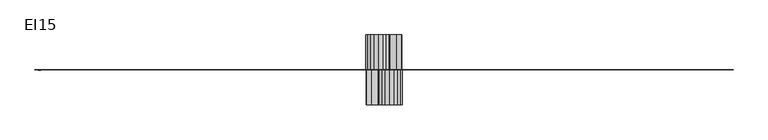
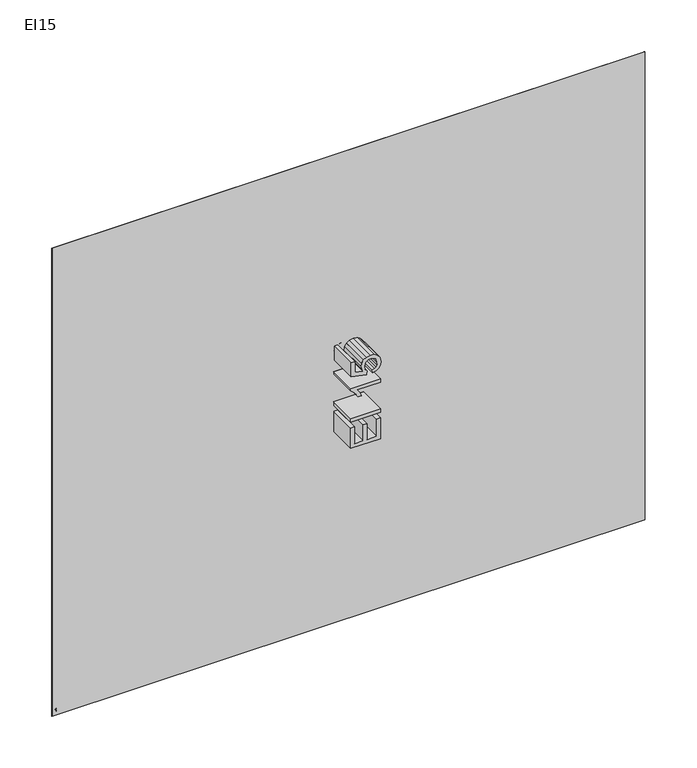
"""IFC4 building model written with IfcOpenShell, lengths in millimetres: proxy geometry, Fire_FireCompartmentationEI : EI15."""

import ifcopenshell
import ifcopenshell.guid

model = None  # the IFC model being written
_history = None  # IfcOwnerHistory: only IFC2X3 demands one
_inside = {}  # id of a spatial element -> (the spatial element, [elements in it])
_under = {}  # id of a project, library or spatial element -> (it, [spatial elements below it])
_declared = {}  # id of a project -> (the project, [libraries it declares])
_typed = {}  # id of a type object -> (the type object, [elements of that type])
_made_of = {}  # id of a material, layer set ... -> (it, [elements and type objects made of it])


def new_model(schema):
    """Start an empty IFC model of exactly this schema.

    Asked for "IFC4X3", IfcOpenShell would pick the latest addendum, in which some entities
    have other attributes; the version numbers below select the first issue.
    IFC2X3 requires an IfcOwnerHistory on every rooted entity: one is made here for all.
    """
    global model, _history
    if schema == "IFC4X3":
        model = ifcopenshell.file(schema_version=(4, 3, 0, 0))
    else:
        model = ifcopenshell.file(schema=schema)
    _inside.clear()
    _under.clear()
    _declared.clear()
    _typed.clear()
    _made_of.clear()
    _history = None
    if model.schema == "IFC2X3":
        org = make("IfcOrganization", Name="unknown")
        user = make(
            "IfcPersonAndOrganization",
            ThePerson=make("IfcPerson", FamilyName="unknown"),
            TheOrganization=org,
        )
        app = make(
            "IfcApplication",
            ApplicationDeveloper=org,
            Version="unknown",
            ApplicationFullName="unknown",
            ApplicationIdentifier="unknown",
        )
        _history = make(
            "IfcOwnerHistory",
            OwningUser=user,
            OwningApplication=app,
            ChangeAction="ADDED",
            CreationDate=0,
        )
    return model


def make(cls, **values):
    """One entity of the class cls with the attributes given. An attribute that is None is left unset."""
    return model.create_entity(
        cls, **{name: value for name, value in values.items() if value is not None}
    )


def rooted(cls, **values):
    """An entity with a GlobalId (a new one), such as an element, a storey or a relation."""
    return make(cls, GlobalId=ifcopenshell.guid.new(), OwnerHistory=_history, **values)


def si_unit(unit_type, name, prefix=None):
    """IfcSIUnit, for example si_unit("LENGTHUNIT", "METRE", prefix="MILLI")."""
    return make("IfcSIUnit", UnitType=unit_type, Prefix=prefix, Name=name)


def assignment(units):
    """IfcUnitAssignment: the units of a project."""
    return None if units is None else make("IfcUnitAssignment", Units=units)


def point(xyz):
    """IfcCartesianPoint."""
    return None if xyz is None else make("IfcCartesianPoint", Coordinates=xyz)


def direction(xyz):
    """IfcDirection."""
    return None if xyz is None else make("IfcDirection", DirectionRatios=xyz)


def frame(location, z_axis=None, x_axis=None):
    """IfcAxis2Placement3D, a coordinate frame: its origin and axes. An axis left out is left unset."""
    return make(
        "IfcAxis2Placement3D",
        Location=point(location),
        Axis=direction(z_axis),
        RefDirection=direction(x_axis),
    )


def frame_2d(location, x_axis=None):
    """IfcAxis2Placement2D, a coordinate frame in the plane: its origin and x axis."""
    return make(
        "IfcAxis2Placement2D", Location=point(location), RefDirection=direction(x_axis)
    )


def origin():
    """The frame at (0, 0, 0) with its axes left unset."""
    return frame((0.0, 0.0, 0.0))


def origin_with_axes():
    """The frame at (0, 0, 0) with the z axis (0, 0, 1) and the x axis (1, 0, 0) written out."""
    return frame((0.0, 0.0, 0.0), z_axis=(0.0, 0.0, 1.0), x_axis=(1.0, 0.0, 0.0))


def place(relative_to, where):
    """IfcLocalPlacement: puts the frame where relative to a parent placement (None: the world)."""
    return make(
        "IfcLocalPlacement", PlacementRelTo=relative_to, RelativePlacement=where
    )


def context(
    kind, dimensions, precision=None, world=None, true_north=None, identifier=None
):
    """IfcGeometricRepresentationContext, for example the 3D "Model" context."""
    return make(
        "IfcGeometricRepresentationContext",
        ContextIdentifier=identifier,
        ContextType=kind,
        CoordinateSpaceDimension=dimensions,
        Precision=precision,
        WorldCoordinateSystem=world,
        TrueNorth=true_north,
    )


def project(units=None, contexts=None):
    """IfcProject with its units and contexts."""
    return rooted(
        "IfcProject",
        Name="project",
        RepresentationContexts=contexts,
        UnitsInContext=assignment(units),
    )


def spatial(cls, under=None, at=None, **own):
    """A site, building, storey or space (cls), placed at a placement, below another one or the project."""
    s = rooted(cls, ObjectPlacement=at, **own)
    if under is not None:
        _under.setdefault(under.id(), (under, []))[1].append(s)
    return s


def polyline(points):
    """IfcPolyline through the points."""
    return make("IfcPolyline", Points=[point(p) for p in points])


def circle_curve(where, radius):
    """IfcCircle in the frame where."""
    return make("IfcCircle", Position=where, Radius=radius)


def trimmed(basis, trim1, trim2, sense, master):
    """IfcTrimmedCurve: the piece of a basis curve between two trims."""
    return make(
        "IfcTrimmedCurve",
        BasisCurve=basis,
        Trim1=trim1,
        Trim2=trim2,
        SenseAgreement=sense,
        MasterRepresentation=master,
    )


def segment(curve, same_sense, transition):
    """IfcCompositeCurveSegment."""
    return make(
        "IfcCompositeCurveSegment",
        Transition=transition,
        SameSense=same_sense,
        ParentCurve=curve,
    )


def composite_curve(segments, self_intersect=None):
    """IfcCompositeCurve: segments joined end to end."""
    return make("IfcCompositeCurve", Segments=segments, SelfIntersect=self_intersect)


def outline(outer, holes=None, kind="AREA"):
    """IfcArbitraryClosedProfileDef: a profile drawn as a closed curve; with holes, ...WithVoids."""
    if holes is None:
        return make("IfcArbitraryClosedProfileDef", ProfileType=kind, OuterCurve=outer)
    return make(
        "IfcArbitraryProfileDefWithVoids",
        ProfileType=kind,
        OuterCurve=outer,
        InnerCurves=holes,
    )


def extrude(swept, where, along, depth):
    """IfcExtrudedAreaSolid: the profile swept, set in the frame where, extruded along a direction by depth."""
    return make(
        "IfcExtrudedAreaSolid",
        SweptArea=swept,
        Position=where,
        ExtrudedDirection=direction(along),
        Depth=depth,
    )


def shape(context_of_items, identifier, shape_type, items):
    """IfcShapeRepresentation: the items that make up one representation, for example the "Body"."""
    return make(
        "IfcShapeRepresentation",
        ContextOfItems=context_of_items,
        RepresentationIdentifier=identifier,
        RepresentationType=shape_type,
        Items=items,
    )


def source(mapping_origin, context_of_items, identifier, shape_type, items):
    """IfcRepresentationMap: a shape defined once, which mapped items show again and again."""
    return make(
        "IfcRepresentationMap",
        MappingOrigin=mapping_origin,
        MappedRepresentation=shape(context_of_items, identifier, shape_type, items),
    )


def transform(
    local_origin,
    x_axis=None,
    y_axis=None,
    z_axis=None,
    scale=None,
    scale2=None,
    scale3=None,
    uniform=True,
):
    """IfcCartesianTransformationOperator3D, or its non-uniform kind. x_axis, y_axis, z_axis: its Axis1, 2, 3."""
    if uniform:
        return make(
            "IfcCartesianTransformationOperator3D",
            Axis1=direction(x_axis),
            Axis2=direction(y_axis),
            LocalOrigin=point(local_origin),
            Scale=scale,
            Axis3=direction(z_axis),
        )
    return make(
        "IfcCartesianTransformationOperator3DnonUniform",
        Axis1=direction(x_axis),
        Axis2=direction(y_axis),
        LocalOrigin=point(local_origin),
        Scale=scale,
        Axis3=direction(z_axis),
        Scale2=scale2,
        Scale3=scale3,
    )


def mapped(mapping_source, mapping_target):
    """IfcMappedItem: shows the shape of a source again, moved by a transform."""
    return make(
        "IfcMappedItem", MappingSource=mapping_source, MappingTarget=mapping_target
    )


def made_of(thing, what):
    """Note that an element or type object is made of a material, layer set ...; save() writes the relation."""
    if what is not None:
        _made_of.setdefault(what.id(), (what, []))[1].append(thing)
    return thing


def element(
    cls,
    number,
    at=None,
    inside=None,
    cuts=None,
    type_object=None,
    material=None,
    context=None,
    identifier="Body",
    shape_type=None,
    held_by="IfcProductDefinitionShape",
    body=None,
    shapes=None,
    **own,
):
    """One element of the class cls, such as IfcWall. Its Tag is "e" and its number.

    at: its placement. inside: the storey or other place that contains it. cuts: it is an
    opening in that element (IfcRelVoidsElement). A single representation is given by context,
    identifier, shape_type and body (its items); several are given by shapes. held_by: the class
    of the entity that holds the representations. save() writes the other relations.
    """
    e = rooted(cls, Tag="e%d" % number, ObjectPlacement=at, **own)
    if body is not None:
        shapes = [shape(context, identifier, shape_type, body)]
    if shapes is not None:
        e.Representation = make(held_by, Representations=shapes)
    if inside is not None:
        _inside.setdefault(inside.id(), (inside, []))[1].append(e)
    if cuts is not None:
        rooted(
            "IfcRelVoidsElement", RelatingBuildingElement=cuts, RelatedOpeningElement=e
        )
    if type_object is not None:
        _typed.setdefault(type_object.id(), (type_object, []))[1].append(e)
    return made_of(e, material)


def aggregate(whole, parts):
    """IfcRelAggregates: a whole, such as a stair, and the parts it consists of."""
    return rooted("IfcRelAggregates", RelatingObject=whole, RelatedObjects=parts)


def save(model, path):
    """Write the relations noted so far, then the file.

    IfcRelAggregates (storeys below a building ...), IfcRelContainedInSpatialStructure (elements
    in a storey), IfcRelDefinesByType, IfcRelAssociatesMaterial and IfcRelDeclares: one each for
    every whole, place, type object, material and project.
    """
    for whole, parts in _under.values():
        aggregate(whole, parts)
    for where, things in _inside.values():
        rooted(
            "IfcRelContainedInSpatialStructure",
            RelatedElements=things,
            RelatingStructure=where,
        )
    for kind, things in _typed.values():
        rooted("IfcRelDefinesByType", RelatedObjects=things, RelatingType=kind)
    for what, things in _made_of.values():
        rooted("IfcRelAssociatesMaterial", RelatedObjects=things, RelatingMaterial=what)
    for by, libraries in _declared.values():
        rooted("IfcRelDeclares", RelatingContext=by, RelatedDefinitions=libraries)
    model.write(path)


def ei15_70f88291(model_context):
    return source(origin(), model_context, "Body", "SweptSolid", [
        extrude(outline(polyline([(3000.0, -0.5), (0.0, -0.5), (0.0, 0.5), (3000.0, 0.5), (3000.0, -0.5)])), origin_with_axes(), (0.0, 0.0, 1.0), 2500.0),
        extrude(outline(composite_curve([segment(trimmed(circle_curve(frame_2d((28.9488523, 20.9372462)), 4.3000253), [point((27.7936078, 25.0791815))], [point((29.724042, 25.1668205))], False, "CARTESIAN"), True, "CONTINUOUS"), segment(trimmed(circle_curve(frame_2d((29.6833004, 19.2917407)), 5.875221), [point((29.724042, 25.1668205))], [point((32.6283278, 24.3755421))], False, "CARTESIAN"), True, "CONTINUOUS"), segment(trimmed(circle_curve(frame_2d((32.8576867, 20.8662932)), 3.5167361), [point((32.6283278, 24.3755421))], [point((30.6249304, 23.5833197))], True, "CARTESIAN"), True, "CONTINUOUS"), segment(trimmed(circle_curve(frame_2d((10.876956, 53.8348059)), 36.1266511), [point((30.6249304, 23.5833197))], [point((25.8949704, 20.9776277))], False, "CARTESIAN"), True, "CONTINUOUS"), segment(trimmed(circle_curve(frame_2d((21.9041848, 33.757735)), 13.3887083), [point((25.8949704, 20.9776277))], [point((22.6832699, 20.3917132))], False, "CARTESIAN"), True, "CONTINUOUS"), segment(trimmed(circle_curve(frame_2d((20.9508608, 39.8789486)), 19.5640891), [point((22.6832699, 20.3917132))], [point((20.0109811, 20.3374489))], False, "CARTESIAN"), True, "CONTINUOUS"), segment(trimmed(circle_curve(frame_2d((18.2722891, 30.1747881)), 9.9898094), [point((20.0109811, 20.3374489))], [point((25.2489423, 23.0247809))], True, "CARTESIAN"), True, "CONTINUOUS"), segment(trimmed(circle_curve(frame_2d((30.9774835, 18.5323372)), 7.2799887), [point((25.2489423, 23.0247809))], [point((27.7936078, 25.0791815))], False, "CARTESIAN"), True, "CONTINUOUS")], self_intersect=False)), frame((0.0, -0.6, 0.0), z_axis=(0.0, 1.0, 0.0), x_axis=(0.0, 0.0, 1.0)), (0.0, 0.0, 1.0), 1.2),
        extrude(outline(composite_curve([segment(trimmed(circle_curve(frame_2d((34.8553456, 17.4656787)), 4.3823741), [point((35.4675373, 21.8050824))], [point((32.7666638, 21.3182897))], True, "CARTESIAN"), True, "CONTINUOUS"), segment(trimmed(circle_curve(frame_2d((31.0348418, 25.2412811)), 4.2882478), [point((32.7666638, 21.3182897))], [point((31.0556823, 20.9530839))], False, "CARTESIAN"), True, "CONTINUOUS"), segment(trimmed(circle_curve(frame_2d((30.8661112, 26.3534755)), 5.4037178), [point((31.0556823, 20.9530839))], [point((28.4262544, 21.5319337))], False, "CARTESIAN"), True, "CONTINUOUS"), segment(trimmed(circle_curve(frame_2d((28.9867579, 26.8058524)), 5.3036197), [point((28.4262544, 21.5319337))], [point((30.6443727, 21.7679267))], True, "CARTESIAN"), True, "CONTINUOUS"), segment(trimmed(circle_curve(frame_2d((33.7648144, 18.2895153)), 4.6729544), [point((30.6443727, 21.7679267))], [point((32.5632515, 22.8053485))], False, "CARTESIAN"), True, "CONTINUOUS"), segment(trimmed(circle_curve(frame_2d((33.1708117, 19.8529583)), 3.0142556), [point((32.5632515, 22.8053485))], [point((35.4675373, 21.8050824))], False, "CARTESIAN"), True, "CONTINUOUS")], self_intersect=False)), frame((0.0, -0.6, 0.0), z_axis=(0.0, 1.0, 0.0), x_axis=(0.0, 0.0, 1.0)), (0.0, 0.0, 1.0), 1.2),
        extrude(outline(composite_curve([segment(trimmed(circle_curve(frame_2d((26.35828, 17.8501973)), 2.1465167), [point((27.6612009, 19.5560492))], [point((26.6135063, 19.9814864))], True, "CARTESIAN"), True, "CONTINUOUS"), segment(trimmed(circle_curve(frame_2d((25.771558, 13.6747037)), 6.3627341), [point((26.6135063, 19.9814864))], [point((25.1811141, 20.0099828))], True, "CARTESIAN"), True, "CONTINUOUS"), segment(trimmed(circle_curve(frame_2d((27.6708438, 15.0485986)), 5.5510437), [point((25.1811141, 20.0099828))], [point((27.8117089, 20.5978547))], False, "CARTESIAN"), True, "CONTINUOUS"), segment(trimmed(circle_curve(frame_2d((27.9681735, 17.2267436)), 3.3747401), [point((27.8117089, 20.5978547))], [point((29.507487, 20.2299728))], False, "CARTESIAN"), True, "CONTINUOUS"), segment(trimmed(circle_curve(frame_2d((31.5381431, 23.6896238)), 4.0115769), [point((29.507487, 20.2299728))], [point((32.2223971, 19.7368341))], True, "CARTESIAN"), True, "CONTINUOUS"), segment(trimmed(circle_curve(frame_2d((29.9256715, 21.6889582)), 3.0142556), [point((32.2223971, 19.7368341))], [point((29.3181113, 18.736568))], False, "CARTESIAN"), True, "CONTINUOUS"), segment(trimmed(circle_curve(frame_2d((30.5170043, 23.2454076)), 4.6655095), [point((29.3181113, 18.736568))], [point((27.6612009, 19.5560492))], False, "CARTESIAN"), True, "CONTINUOUS")], self_intersect=False)), frame((0.0, -0.6, 0.0), z_axis=(0.0, 1.0, 0.0), x_axis=(0.0, 0.0, 1.0)), (0.0, 0.0, 1.0), 1.2),
        extrude(outline(composite_curve([segment(trimmed(circle_curve(frame_2d((32.8467056, 19.4711557)), 3.5167361), [point((30.6139493, 16.7541292))], [point((32.6173467, 15.9619068))], True, "CARTESIAN"), True, "CONTINUOUS"), segment(trimmed(circle_curve(frame_2d((29.6723193, 21.0457082)), 5.875221), [point((32.6173467, 15.9619068))], [point((29.7130609, 15.1706284))], False, "CARTESIAN"), True, "CONTINUOUS"), segment(trimmed(circle_curve(frame_2d((28.9378712, 19.4002026)), 4.3000253), [point((29.7130609, 15.1706284))], [point((27.7826267, 15.2582674))], False, "CARTESIAN"), True, "CONTINUOUS"), segment(trimmed(circle_curve(frame_2d((30.9665024, 21.8051117)), 7.2799887), [point((27.7826267, 15.2582674))], [point((25.2379612, 17.312668))], False, "CARTESIAN"), True, "CONTINUOUS"), segment(trimmed(circle_curve(frame_2d((18.261308, 10.1626608)), 9.9898094), [point((25.2379612, 17.312668))], [point((20.0, 20.0))], True, "CARTESIAN"), True, "CONTINUOUS"), segment(trimmed(circle_curve(frame_2d((20.9398797, 0.4585003)), 19.5640891), [point((20.0, 20.0))], [point((22.6722888, 19.9457357))], False, "CARTESIAN"), True, "CONTINUOUS"), segment(trimmed(circle_curve(frame_2d((21.8932037, 6.5797139)), 13.3887083), [point((22.6722888, 19.9457357))], [point((25.8839893, 19.3598212))], False, "CARTESIAN"), True, "CONTINUOUS"), segment(trimmed(circle_curve(frame_2d((10.8659749, -13.497357)), 36.1266511), [point((25.8839893, 19.3598212))], [point((30.6139493, 16.7541292))], False, "CARTESIAN"), True, "CONTINUOUS")], self_intersect=False)), frame((0.0, -0.6, 0.0), z_axis=(0.0, 1.0, 0.0), x_axis=(0.0, 0.0, 1.0)), (0.0, 0.0, 1.0), 1.2),
        extrude(outline(polyline([(1022.7960798, 1425.0), (1022.7960798, 1575.6844652), (1131.1005392, 1575.6844652), (1131.1005392, 1556.8489071), (1041.6316379, 1556.8489071), (1041.6316379, 1512.1144565), (1126.3916496, 1512.1144565), (1126.3916496, 1493.2788983), (1041.6316379, 1493.2788983), (1041.6316379, 1443.8355582), (1133.4549839, 1443.8355582), (1133.4549839, 1425.0), (1022.7960798, 1425.0)])), frame((0.0, 0.0, 0.0), z_axis=(0.0, 1.0, 0.0), x_axis=(0.0, 0.0, 1.0)), (0.0, 0.0, 1.0), 150.0),
        extrude(outline(polyline([(1425.0, 150.0), (1575.6844652, 150.0), (1575.6844652, 0.0), (1425.0, 0.0), (1425.0, 150.0)])), frame((0.0, 0.0, 1164.0627659), z_axis=(0.0, 0.0, 1.0), x_axis=(1.0, 0.0, 0.0)), (0.0, 0.0, 1.0), 18.8355582),
        extrude(outline(polyline([(1343.0005684, 1425.0), (1324.1650102, 1425.0), (1324.1650102, 1542.4279329), (1306.3227335, 1529.7176099), (1286.4938939, 1520.2078604), (1286.4938939, 1538.0133489), (1314.1034377, 1555.6348965), (1330.8604625, 1575.6844652), (1343.0005684, 1575.6844652), (1343.0005684, 1425.0)])), frame((0.0, 0.0, 0.0), z_axis=(0.0, 1.0, 0.0), x_axis=(0.0, 0.0, 1.0)), (0.0, 0.0, 1.0), 150.0),
        extrude(outline(polyline([(1387.735019, 1465.0255611), (1406.5705771, 1467.3800058), (1410.0286679, 1456.072233), (1416.0619326, 1447.9742306), (1424.6427802, 1443.1043927), (1435.7436194, 1441.4811134), (1449.2448886, 1443.7389891), (1459.3616435, 1450.5126164), (1465.6800167, 1461.0202459), (1467.7861411, 1474.4801284), (1465.8133739, 1487.1536631), (1459.8950723, 1496.8473537), (1449.9852511, 1503.00018), (1436.037925, 1505.0511222), (1419.5016293, 1501.7769724), (1408.9250219, 1493.2788983), (1390.0894638, 1495.6333431), (1406.5705771, 1573.3300205), (1479.558365, 1573.3300205), (1479.558365, 1554.4944623), (1421.8008917, 1554.4944623), (1413.7442761, 1512.9973732), (1427.19956, 1521.1643535), (1441.2986375, 1523.8866803), (1458.8971924, 1520.511363), (1473.5067062, 1510.3854111), (1483.342951, 1494.9527614), (1486.6216993, 1475.6573507), (1483.6694463, 1456.8217926), (1474.8126873, 1440.7085612), (1457.8533273, 1427.1613067), (1435.670043, 1422.6455552), (1417.1701771, 1425.5472245), (1402.4319047, 1434.2522322), (1392.3289454, 1447.7489029), (1387.735019, 1465.0255611)])), frame((0.0, 0.0, 0.0), z_axis=(0.0, 1.0, 0.0), x_axis=(0.0, 0.0, 1.0)), (0.0, 0.0, 1.0), 150.0),
        extrude(outline(polyline([(1022.7960798, 1575.0), (1133.4549839, 1575.0), (1133.4549839, 1556.1644418), (1041.6316379, 1556.1644418), (1041.6316379, 1506.7211017), (1126.3916496, 1506.7211017), (1126.3916496, 1487.8855435), (1041.6316379, 1487.8855435), (1041.6316379, 1443.1510929), (1131.1005392, 1443.1510929), (1131.1005392, 1424.3155348), (1022.7960798, 1424.3155348), (1022.7960798, 1575.0)])), frame((0.0, -150.0, 0.0), z_axis=(0.0, 1.0, 0.0), x_axis=(0.0, 0.0, 1.0)), (0.0, 0.0, 1.0), 150.0),
        extrude(outline(polyline([(1575.0, -150.0), (1424.3155348, -150.0), (1424.3155348, 0.0), (1575.0, 0.0), (1575.0, -150.0)])), frame((0.0, 0.0, 1164.0627659), z_axis=(0.0, 0.0, 1.0), x_axis=(1.0, 0.0, 0.0)), (0.0, 0.0, 1.0), 18.8355582),
        extrude(outline(polyline([(1343.0005684, 1575.0), (1343.0005684, 1424.3155348), (1330.8604625, 1424.3155348), (1314.1034377, 1444.3651035), (1286.4938939, 1461.9866511), (1286.4938939, 1479.7921396), (1306.3227335, 1470.2823901), (1324.1650102, 1457.5720671), (1324.1650102, 1575.0), (1343.0005684, 1575.0)])), frame((0.0, -150.0, 0.0), z_axis=(0.0, 1.0, 0.0), x_axis=(0.0, 0.0, 1.0)), (0.0, 0.0, 1.0), 150.0),
        extrude(outline(polyline([(1387.735019, 1534.9744389), (1392.3289454, 1552.2510971), (1402.4319047, 1565.7477678), (1417.1701771, 1574.4527755), (1435.670043, 1577.3544448), (1457.8533273, 1572.8386933), (1474.8126873, 1559.2914388), (1483.6694463, 1543.1782074), (1486.6216993, 1524.3426493), (1483.342951, 1505.0472386), (1473.5067062, 1489.6145889), (1458.8971924, 1479.488637), (1441.2986375, 1476.1133197), (1427.19956, 1478.8356465), (1413.7442761, 1487.0026268), (1421.8008917, 1445.5055377), (1479.558365, 1445.5055377), (1479.558365, 1426.6699795), (1406.5705771, 1426.6699795), (1390.0894638, 1504.3666569), (1408.9250219, 1506.7211017), (1419.5016293, 1498.2230276), (1436.037925, 1494.9488778), (1449.9852511, 1496.99982), (1459.8950723, 1503.1526463), (1465.8133739, 1512.8463369), (1467.7861411, 1525.5198716), (1465.6800167, 1538.9797541), (1459.3616435, 1549.4873836), (1449.2448886, 1556.2610109), (1435.7436194, 1558.5188866), (1424.6427802, 1556.8956073), (1416.0619326, 1552.0257694), (1410.0286679, 1543.927767), (1406.5705771, 1532.6199942), (1387.735019, 1534.9744389)])), frame((0.0, -150.0, 0.0), z_axis=(0.0, 1.0, 0.0), x_axis=(0.0, 0.0, 1.0)), (0.0, 0.0, 1.0), 150.0),
    ])


if __name__ == "__main__":
    model = new_model("IFC4")
    model_context = context("Model", 3, world=origin())
    ifc_project = project(units=[si_unit("LENGTHUNIT", "METRE", prefix="MILLI")], contexts=[model_context])
    site = spatial("IfcSite", under=ifc_project)
    building = spatial("IfcBuilding", under=site)
    placement = place(None, origin())
    ei15_shape = ei15_70f88291(model_context)
    element("IfcBuildingElementProxy", 1, Name="Fire_FireCompartmentationEI : EI15", ObjectType="Fire_FireCompartmentationEI : EI15", at=placement, inside=building, context=model_context, shape_type="MappedRepresentation", body=[
        mapped(ei15_shape, transform((0.0, 0.0, 0.0), x_axis=(1.0, 0.0, 0.0), y_axis=(0.0, 1.0, 0.0), z_axis=(0.0, 0.0, 1.0))),
    ])
    save(model, "model.ifc")
